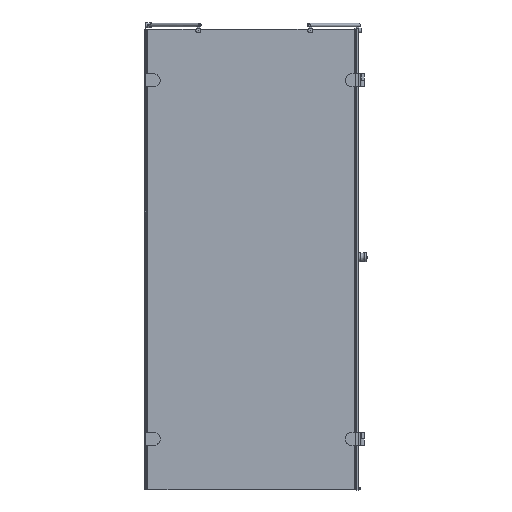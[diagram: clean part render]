
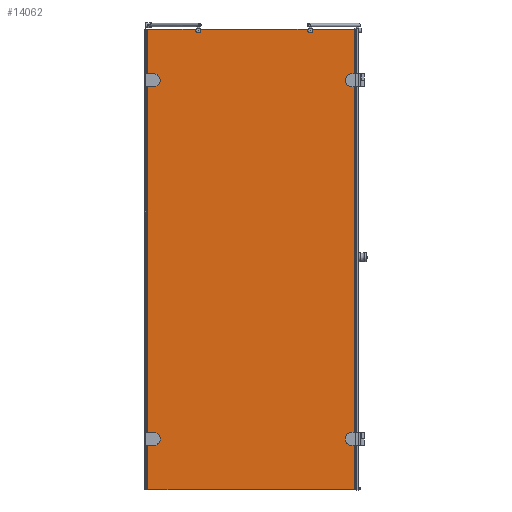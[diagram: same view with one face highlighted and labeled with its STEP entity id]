
A CAD part, left-side view. The second image highlights one B-rep face of the part: STEP entity #14062.
In plain terms, the highlighted planar face has unit normal (-1, 0, 0).
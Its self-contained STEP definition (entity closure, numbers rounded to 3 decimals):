
#244=LINE($,#20967,#1583);
#260=LINE($,#21017,#1599);
#313=LINE($,#21445,#1652);
#314=LINE($,#21447,#1653);
#315=LINE($,#21449,#1654);
#316=LINE($,#21450,#1655);
#317=LINE($,#21451,#1656);
#318=LINE($,#21454,#1657);
#319=LINE($,#21456,#1658);
#320=LINE($,#21458,#1659);
#321=LINE($,#21462,#1660);
#322=LINE($,#21464,#1661);
#323=LINE($,#21466,#1662);
#1583=VECTOR($,#16584,17.861);
#1599=VECTOR($,#16636,174.231);
#1652=VECTOR($,#16827,198.474);
#1653=VECTOR($,#16828,1900.);
#1654=VECTOR($,#16829,853.);
#1655=VECTOR($,#16830,1900.);
#1656=VECTOR($,#16831,444.574);
#1657=VECTOR($,#16832,15.);
#1658=VECTOR($,#16833,52.);
#1659=VECTOR($,#16834,15.);
#1660=VECTOR($,#16837,15.);
#1661=VECTOR($,#16838,52.);
#1662=VECTOR($,#16839,15.);
#3180=FACE_BOUND($,#4297,.T.);
#3181=FACE_BOUND($,#4298,.T.);
#3182=FACE_BOUND($,#4299,.T.);
#3183=FACE_BOUND($,#4300,.T.);
#3184=FACE_BOUND($,#4301,.T.);
#4297=EDGE_LOOP($,(#9355));
#4298=EDGE_LOOP($,(#9356));
#4299=EDGE_LOOP($,(#9357,#9358,#9359,#9360,#9361,#9362,#9363,#9364));
#4300=EDGE_LOOP($,(#9365,#9366,#9367,#9368));
#4301=EDGE_LOOP($,(#9369,#9370,#9371,#9372));
#5181=CIRCLE($,#15018,10.);
#5190=CIRCLE($,#15040,6.);
#5191=CIRCLE($,#15041,6.);
#5192=CIRCLE($,#15042,26.);
#5193=CIRCLE($,#15043,26.);
#5703=VERTEX_POINT($,#20965);
#5704=VERTEX_POINT($,#20966);
#5720=VERTEX_POINT($,#21016);
#5810=VERTEX_POINT($,#21236);
#5811=VERTEX_POINT($,#21238);
#5828=VERTEX_POINT($,#21440);
#5829=VERTEX_POINT($,#21442);
#5830=VERTEX_POINT($,#21444);
#5831=VERTEX_POINT($,#21446);
#5832=VERTEX_POINT($,#21448);
#5833=VERTEX_POINT($,#21452);
#5834=VERTEX_POINT($,#21453);
#5835=VERTEX_POINT($,#21455);
#5836=VERTEX_POINT($,#21457);
#5837=VERTEX_POINT($,#21460);
#5838=VERTEX_POINT($,#21461);
#5839=VERTEX_POINT($,#21463);
#5840=VERTEX_POINT($,#21465);
#7013=EDGE_CURVE($,#5703,#5704,#244,.T.);
#7037=EDGE_CURVE($,#5704,#5720,#260,.T.);
#7130=EDGE_CURVE($,#5810,#5811,#5181,.T.);
#7154=EDGE_CURVE($,#5828,#5828,#5190,.T.);
#7155=EDGE_CURVE($,#5829,#5829,#5191,.T.);
#7156=EDGE_CURVE($,#5830,#5810,#313,.T.);
#7157=EDGE_CURVE($,#5831,#5830,#314,.T.);
#7158=EDGE_CURVE($,#5831,#5832,#315,.T.);
#7159=EDGE_CURVE($,#5720,#5832,#316,.T.);
#7160=EDGE_CURVE($,#5811,#5703,#317,.T.);
#7161=EDGE_CURVE($,#5833,#5834,#318,.T.);
#7162=EDGE_CURVE($,#5835,#5833,#319,.T.);
#7163=EDGE_CURVE($,#5836,#5835,#320,.T.);
#7164=EDGE_CURVE($,#5834,#5836,#5192,.T.);
#7165=EDGE_CURVE($,#5837,#5838,#321,.T.);
#7166=EDGE_CURVE($,#5839,#5837,#322,.T.);
#7167=EDGE_CURVE($,#5840,#5839,#323,.T.);
#7168=EDGE_CURVE($,#5838,#5840,#5193,.T.);
#9355=ORIENTED_EDGE($,*,*,#7154,.F.);
#9356=ORIENTED_EDGE($,*,*,#7155,.F.);
#9357=ORIENTED_EDGE($,*,*,#7130,.F.);
#9358=ORIENTED_EDGE($,*,*,#7156,.F.);
#9359=ORIENTED_EDGE($,*,*,#7157,.F.);
#9360=ORIENTED_EDGE($,*,*,#7158,.T.);
#9361=ORIENTED_EDGE($,*,*,#7159,.F.);
#9362=ORIENTED_EDGE($,*,*,#7037,.F.);
#9363=ORIENTED_EDGE($,*,*,#7013,.F.);
#9364=ORIENTED_EDGE($,*,*,#7160,.F.);
#9365=ORIENTED_EDGE($,*,*,#7161,.F.);
#9366=ORIENTED_EDGE($,*,*,#7162,.F.);
#9367=ORIENTED_EDGE($,*,*,#7163,.F.);
#9368=ORIENTED_EDGE($,*,*,#7164,.F.);
#9369=ORIENTED_EDGE($,*,*,#7165,.F.);
#9370=ORIENTED_EDGE($,*,*,#7166,.F.);
#9371=ORIENTED_EDGE($,*,*,#7167,.F.);
#9372=ORIENTED_EDGE($,*,*,#7168,.F.);
#12608=PLANE($,#15039);
#14062=ADVANCED_FACE($,(#3180,#3181,#3182,#3183,#3184),#12608,.F.);
#15018=AXIS2_PLACEMENT_3D($,#21239,#16772,#16773);
#15039=AXIS2_PLACEMENT_3D($,#21439,#16821,#16822);
#15040=AXIS2_PLACEMENT_3D($,#21441,#16823,#16824);
#15041=AXIS2_PLACEMENT_3D($,#21443,#16825,#16826);
#15042=AXIS2_PLACEMENT_3D($,#21459,#16835,#16836);
#15043=AXIS2_PLACEMENT_3D($,#21467,#16840,#16841);
#16584=DIRECTION($,(0.,-1.,0.));
#16636=DIRECTION($,(0.,-1.,0.));
#16772=DIRECTION('center_axis',(-1.,0.,0.));
#16773=DIRECTION('ref_axis',(0.,0.597,0.802));
#16821=DIRECTION('center_axis',(1.,0.,0.));
#16822=DIRECTION('ref_axis',(0.,-1.,0.));
#16823=DIRECTION('center_axis',(-1.,0.,0.));
#16824=DIRECTION('ref_axis',(0.,1.,0.));
#16825=DIRECTION('center_axis',(-1.,0.,0.));
#16826=DIRECTION('ref_axis',(0.,1.,0.));
#16827=DIRECTION($,(0.,-1.,0.));
#16828=DIRECTION($,(0.,0.,1.));
#16829=DIRECTION($,(0.,-1.,0.));
#16830=DIRECTION($,(0.,0.,-1.));
#16831=DIRECTION($,(0.,-1.,0.));
#16832=DIRECTION($,(0.,-1.,0.));
#16833=DIRECTION($,(0.,0.,-1.));
#16834=DIRECTION($,(0.,1.,0.));
#16835=DIRECTION('center_axis',(-1.,0.,0.));
#16836=DIRECTION('ref_axis',(0.,0.,
-1.));
#16837=DIRECTION($,(0.,-1.,0.));
#16838=DIRECTION($,(0.,0.,-1.));
#16839=DIRECTION($,(0.,1.,0.));
#16840=DIRECTION('center_axis',(-1.,0.,0.));
#16841=DIRECTION('ref_axis',(0.,0.,
-1.));
#20965=CARTESIAN_POINT('',(1264.019,173.048,1385.944));
#20966=CARTESIAN_POINT('',(1264.019,155.187,1385.944));
#20967=CARTESIAN_POINT($,(1264.019,838.956,1385.944));
#21016=CARTESIAN_POINT('',(1264.019,-19.044,1385.944));
#21017=CARTESIAN_POINT($,(1264.019,838.956,1385.944));
#21236=CARTESIAN_POINT('',(1264.019,635.482,1385.944));
#21238=CARTESIAN_POINT('',(1264.019,617.622,1385.944));
#21239=CARTESIAN_POINT('Origin',(1264.019,626.552,1381.444));
#21439=CARTESIAN_POINT('Origin',(1264.019,838.956,1385.944));
#21440=CARTESIAN_POINT('',(1264.019,-8.044,-304.056));
#21441=CARTESIAN_POINT('Origin',(1264.019,-2.044,-304.056));
#21442=CARTESIAN_POINT('',(1264.019,-8.044,1175.944));
#21443=CARTESIAN_POINT('Origin',(1264.019,-2.044,1175.944));
#21444=CARTESIAN_POINT('',(1264.019,833.956,1385.944));
#21445=CARTESIAN_POINT($,(1264.019,838.956,1385.944));
#21446=CARTESIAN_POINT('',(1264.019,833.956,-514.056));
#21447=CARTESIAN_POINT($,(1264.019,833.956,435.944));
#21448=CARTESIAN_POINT('',(1264.019,-19.044,-514.056));
#21449=CARTESIAN_POINT($,(1264.019,838.956,-514.056));
#21450=CARTESIAN_POINT($,(1264.019,-19.044,1385.944));
#21451=CARTESIAN_POINT($,(1264.019,838.956,1385.944));
#21452=CARTESIAN_POINT('',(1264.019,824.956,-330.056));
#21453=CARTESIAN_POINT('',(1264.019,809.956,-330.056));
#21454=CARTESIAN_POINT($,(1264.019,824.456,-330.056));
#21455=CARTESIAN_POINT('',(1264.019,824.956,-278.056));
#21456=CARTESIAN_POINT($,(1264.019,824.956,527.944));
#21457=CARTESIAN_POINT('',(1264.019,809.956,-278.056));
#21458=CARTESIAN_POINT($,(1264.019,831.956,-278.056));
#21459=CARTESIAN_POINT('Origin',(1264.019,809.956,-304.056));
#21460=CARTESIAN_POINT('',(1264.019,824.956,1149.944));
#21461=CARTESIAN_POINT('',(1264.019,809.956,1149.944));
#21462=CARTESIAN_POINT($,(1264.019,824.456,1149.944));
#21463=CARTESIAN_POINT('',(1264.019,824.956,1201.944));
#21464=CARTESIAN_POINT($,(1264.019,824.956,1267.944));
#21465=CARTESIAN_POINT('',(1264.019,809.956,1201.944));
#21466=CARTESIAN_POINT($,(1264.019,831.956,1201.944));
#21467=CARTESIAN_POINT('Origin',(1264.019,809.956,1175.944));
